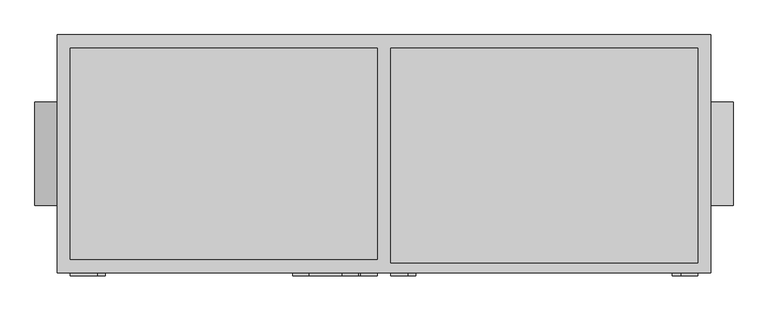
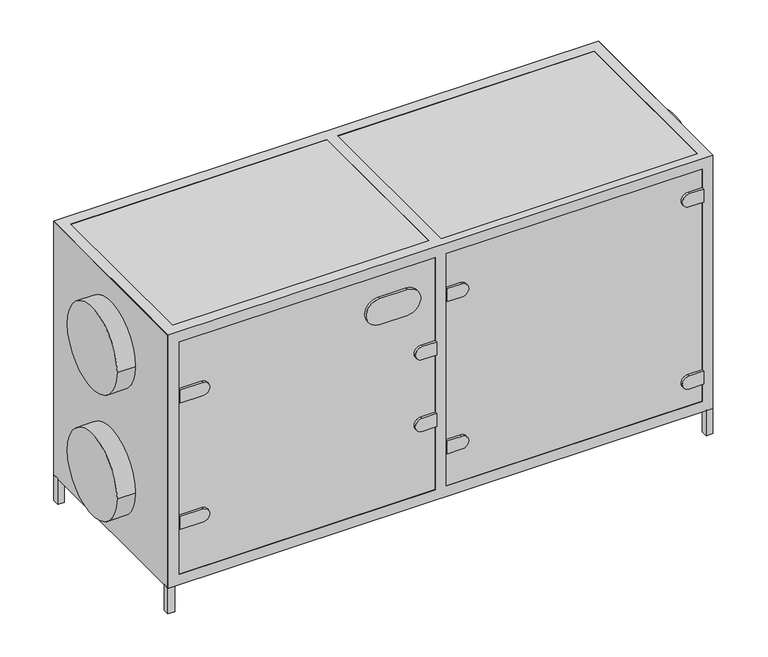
"""IFC4 building model written with IfcOpenShell, lengths in millimetres: proxy geometry, AVS 400...1600-S-RC(RG)-R : AVS 1600-S-RC-R."""

import ifcopenshell
import ifcopenshell.guid

model = None  # the IFC model being written
_history = None  # IfcOwnerHistory: only IFC2X3 demands one
_inside = {}  # id of a spatial element -> (the spatial element, [elements in it])
_under = {}  # id of a project, library or spatial element -> (it, [spatial elements below it])
_declared = {}  # id of a project -> (the project, [libraries it declares])
_typed = {}  # id of a type object -> (the type object, [elements of that type])
_made_of = {}  # id of a material, layer set ... -> (it, [elements and type objects made of it])


def new_model(schema):
    """Start an empty IFC model of exactly this schema.

    Asked for "IFC4X3", IfcOpenShell would pick the latest addendum, in which some entities
    have other attributes; the version numbers below select the first issue.
    IFC2X3 requires an IfcOwnerHistory on every rooted entity: one is made here for all.
    """
    global model, _history
    if schema == "IFC4X3":
        model = ifcopenshell.file(schema_version=(4, 3, 0, 0))
    else:
        model = ifcopenshell.file(schema=schema)
    _inside.clear()
    _under.clear()
    _declared.clear()
    _typed.clear()
    _made_of.clear()
    _history = None
    if model.schema == "IFC2X3":
        org = make("IfcOrganization", Name="unknown")
        user = make(
            "IfcPersonAndOrganization",
            ThePerson=make("IfcPerson", FamilyName="unknown"),
            TheOrganization=org,
        )
        app = make(
            "IfcApplication",
            ApplicationDeveloper=org,
            Version="unknown",
            ApplicationFullName="unknown",
            ApplicationIdentifier="unknown",
        )
        _history = make(
            "IfcOwnerHistory",
            OwningUser=user,
            OwningApplication=app,
            ChangeAction="ADDED",
            CreationDate=0,
        )
    return model


def make(cls, **values):
    """One entity of the class cls with the attributes given. An attribute that is None is left unset."""
    return model.create_entity(
        cls, **{name: value for name, value in values.items() if value is not None}
    )


def rooted(cls, **values):
    """An entity with a GlobalId (a new one), such as an element, a storey or a relation."""
    return make(cls, GlobalId=ifcopenshell.guid.new(), OwnerHistory=_history, **values)


def si_unit(unit_type, name, prefix=None):
    """IfcSIUnit, for example si_unit("LENGTHUNIT", "METRE", prefix="MILLI")."""
    return make("IfcSIUnit", UnitType=unit_type, Prefix=prefix, Name=name)


def assignment(units):
    """IfcUnitAssignment: the units of a project."""
    return None if units is None else make("IfcUnitAssignment", Units=units)


def point(xyz):
    """IfcCartesianPoint."""
    return None if xyz is None else make("IfcCartesianPoint", Coordinates=xyz)


def direction(xyz):
    """IfcDirection."""
    return None if xyz is None else make("IfcDirection", DirectionRatios=xyz)


def frame(location, z_axis=None, x_axis=None):
    """IfcAxis2Placement3D, a coordinate frame: its origin and axes. An axis left out is left unset."""
    return make(
        "IfcAxis2Placement3D",
        Location=point(location),
        Axis=direction(z_axis),
        RefDirection=direction(x_axis),
    )


def frame_2d(location, x_axis=None):
    """IfcAxis2Placement2D, a coordinate frame in the plane: its origin and x axis."""
    return make(
        "IfcAxis2Placement2D", Location=point(location), RefDirection=direction(x_axis)
    )


def origin():
    """The frame at (0, 0, 0) with its axes left unset."""
    return frame((0.0, 0.0, 0.0))


def origin_with_axes():
    """The frame at (0, 0, 0) with the z axis (0, 0, 1) and the x axis (1, 0, 0) written out."""
    return frame((0.0, 0.0, 0.0), z_axis=(0.0, 0.0, 1.0), x_axis=(1.0, 0.0, 0.0))


def place(relative_to, where):
    """IfcLocalPlacement: puts the frame where relative to a parent placement (None: the world)."""
    return make(
        "IfcLocalPlacement", PlacementRelTo=relative_to, RelativePlacement=where
    )


def context(
    kind, dimensions, precision=None, world=None, true_north=None, identifier=None
):
    """IfcGeometricRepresentationContext, for example the 3D "Model" context."""
    return make(
        "IfcGeometricRepresentationContext",
        ContextIdentifier=identifier,
        ContextType=kind,
        CoordinateSpaceDimension=dimensions,
        Precision=precision,
        WorldCoordinateSystem=world,
        TrueNorth=true_north,
    )


def project(units=None, contexts=None):
    """IfcProject with its units and contexts."""
    return rooted(
        "IfcProject",
        Name="project",
        RepresentationContexts=contexts,
        UnitsInContext=assignment(units),
    )


def spatial(cls, under=None, at=None, **own):
    """A site, building, storey or space (cls), placed at a placement, below another one or the project."""
    s = rooted(cls, ObjectPlacement=at, **own)
    if under is not None:
        _under.setdefault(under.id(), (under, []))[1].append(s)
    return s


def polyline(points):
    """IfcPolyline through the points."""
    return make("IfcPolyline", Points=[point(p) for p in points])


def circle_curve(where, radius):
    """IfcCircle in the frame where."""
    return make("IfcCircle", Position=where, Radius=radius)


def trimmed(basis, trim1, trim2, sense, master):
    """IfcTrimmedCurve: the piece of a basis curve between two trims."""
    return make(
        "IfcTrimmedCurve",
        BasisCurve=basis,
        Trim1=trim1,
        Trim2=trim2,
        SenseAgreement=sense,
        MasterRepresentation=master,
    )


def segment(curve, same_sense, transition):
    """IfcCompositeCurveSegment."""
    return make(
        "IfcCompositeCurveSegment",
        Transition=transition,
        SameSense=same_sense,
        ParentCurve=curve,
    )


def composite_curve(segments, self_intersect=None):
    """IfcCompositeCurve: segments joined end to end."""
    return make("IfcCompositeCurve", Segments=segments, SelfIntersect=self_intersect)


def outline(outer, holes=None, kind="AREA"):
    """IfcArbitraryClosedProfileDef: a profile drawn as a closed curve; with holes, ...WithVoids."""
    if holes is None:
        return make("IfcArbitraryClosedProfileDef", ProfileType=kind, OuterCurve=outer)
    return make(
        "IfcArbitraryProfileDefWithVoids",
        ProfileType=kind,
        OuterCurve=outer,
        InnerCurves=holes,
    )


def extrude(swept, where, along, depth):
    """IfcExtrudedAreaSolid: the profile swept, set in the frame where, extruded along a direction by depth."""
    return make(
        "IfcExtrudedAreaSolid",
        SweptArea=swept,
        Position=where,
        ExtrudedDirection=direction(along),
        Depth=depth,
    )


def faces_of(points, faces, orient=None, outer=None):
    """IfcFace entities. A face is a list of loops; a loop is a list of indices into points, from 0.

    orient and outer hold one flag for each loop. By default every Orientation is true, the
    first loop of a face is its IfcFaceOuterBound and the others are IfcFaceBound.
    """
    made = []
    for i, loops in enumerate(faces):
        bounds = []
        for j, loop in enumerate(loops):
            is_outer = j == 0 if outer is None else outer[i][j]
            bounds.append(
                make(
                    "IfcFaceOuterBound" if is_outer else "IfcFaceBound",
                    Bound=make("IfcPolyLoop", Polygon=[points[k] for k in loop]),
                    Orientation=True if orient is None else orient[i][j],
                )
            )
        made.append(make("IfcFace", Bounds=bounds))
    return made


def faceted_brep(points, faces, orient=None, outer=None, voids=None):
    """IfcFacetedBrep: a solid bounded by flat faces; with voids (closed shells), ...WithVoids."""
    shared = [point(p) for p in points]
    hull = make("IfcClosedShell", CfsFaces=faces_of(shared, faces, orient, outer))
    if voids is None:
        return make("IfcFacetedBrep", Outer=hull)
    return make(
        "IfcFacetedBrepWithVoids",
        Outer=hull,
        Voids=[
            make(cls, CfsFaces=faces_of(shared, fs, o, b)) for cls, fs, o, b in voids
        ],
    )


def shape(context_of_items, identifier, shape_type, items):
    """IfcShapeRepresentation: the items that make up one representation, for example the "Body"."""
    return make(
        "IfcShapeRepresentation",
        ContextOfItems=context_of_items,
        RepresentationIdentifier=identifier,
        RepresentationType=shape_type,
        Items=items,
    )


def source(mapping_origin, context_of_items, identifier, shape_type, items):
    """IfcRepresentationMap: a shape defined once, which mapped items show again and again."""
    return make(
        "IfcRepresentationMap",
        MappingOrigin=mapping_origin,
        MappedRepresentation=shape(context_of_items, identifier, shape_type, items),
    )


def transform(
    local_origin,
    x_axis=None,
    y_axis=None,
    z_axis=None,
    scale=None,
    scale2=None,
    scale3=None,
    uniform=True,
):
    """IfcCartesianTransformationOperator3D, or its non-uniform kind. x_axis, y_axis, z_axis: its Axis1, 2, 3."""
    if uniform:
        return make(
            "IfcCartesianTransformationOperator3D",
            Axis1=direction(x_axis),
            Axis2=direction(y_axis),
            LocalOrigin=point(local_origin),
            Scale=scale,
            Axis3=direction(z_axis),
        )
    return make(
        "IfcCartesianTransformationOperator3DnonUniform",
        Axis1=direction(x_axis),
        Axis2=direction(y_axis),
        LocalOrigin=point(local_origin),
        Scale=scale,
        Axis3=direction(z_axis),
        Scale2=scale2,
        Scale3=scale3,
    )


def mapped(mapping_source, mapping_target):
    """IfcMappedItem: shows the shape of a source again, moved by a transform."""
    return make(
        "IfcMappedItem", MappingSource=mapping_source, MappingTarget=mapping_target
    )


def made_of(thing, what):
    """Note that an element or type object is made of a material, layer set ...; save() writes the relation."""
    if what is not None:
        _made_of.setdefault(what.id(), (what, []))[1].append(thing)
    return thing


def element(
    cls,
    number,
    at=None,
    inside=None,
    cuts=None,
    type_object=None,
    material=None,
    context=None,
    identifier="Body",
    shape_type=None,
    held_by="IfcProductDefinitionShape",
    body=None,
    shapes=None,
    **own,
):
    """One element of the class cls, such as IfcWall. Its Tag is "e" and its number.

    at: its placement. inside: the storey or other place that contains it. cuts: it is an
    opening in that element (IfcRelVoidsElement). A single representation is given by context,
    identifier, shape_type and body (its items); several are given by shapes. held_by: the class
    of the entity that holds the representations. save() writes the other relations.
    """
    e = rooted(cls, Tag="e%d" % number, ObjectPlacement=at, **own)
    if body is not None:
        shapes = [shape(context, identifier, shape_type, body)]
    if shapes is not None:
        e.Representation = make(held_by, Representations=shapes)
    if inside is not None:
        _inside.setdefault(inside.id(), (inside, []))[1].append(e)
    if cuts is not None:
        rooted(
            "IfcRelVoidsElement", RelatingBuildingElement=cuts, RelatedOpeningElement=e
        )
    if type_object is not None:
        _typed.setdefault(type_object.id(), (type_object, []))[1].append(e)
    return made_of(e, material)


def aggregate(whole, parts):
    """IfcRelAggregates: a whole, such as a stair, and the parts it consists of."""
    return rooted("IfcRelAggregates", RelatingObject=whole, RelatedObjects=parts)


def save(model, path):
    """Write the relations noted so far, then the file.

    IfcRelAggregates (storeys below a building ...), IfcRelContainedInSpatialStructure (elements
    in a storey), IfcRelDefinesByType, IfcRelAssociatesMaterial and IfcRelDeclares: one each for
    every whole, place, type object, material and project.
    """
    for whole, parts in _under.values():
        aggregate(whole, parts)
    for where, things in _inside.values():
        rooted(
            "IfcRelContainedInSpatialStructure",
            RelatedElements=things,
            RelatingStructure=where,
        )
    for kind, things in _typed.values():
        rooted("IfcRelDefinesByType", RelatedObjects=things, RelatingType=kind)
    for what, things in _made_of.values():
        rooted("IfcRelAssociatesMaterial", RelatedObjects=things, RelatingMaterial=what)
    for by, libraries in _declared.values():
        rooted("IfcRelDeclares", RelatingContext=by, RelatedDefinitions=libraries)
    model.write(path)


def mechanical_equipment_086ffb07(model_context):
    return source(origin(), model_context, "Body", "SolidModel", [
        extrude(outline(polyline([(974.0, 363.0), (999.0, 363.0), (999.0, 338.0), (974.0, 338.0), (974.0, 363.0)])), origin_with_axes(), (0.0, 0.0, 1.0), 100.0),
        extrude(outline(polyline([(974.0, -363.0), (974.0, -338.0), (999.0, -338.0), (999.0, -363.0), (974.0, -363.0)])), origin_with_axes(), (0.0, 0.0, 1.0), 100.0),
        extrude(outline(polyline([(-999.0, 338.0), (-999.0, 363.0), (-974.0, 363.0), (-974.0, 338.0), (-999.0, 338.0)])), origin_with_axes(), (0.0, 0.0, 1.0), 100.0),
        extrude(outline(polyline([(-999.0, -338.0), (-974.0, -338.0), (-974.0, -363.0), (-999.0, -363.0), (-999.0, -338.0)])), origin_with_axes(), (0.0, 0.0, 1.0), 100.0),
        faceted_brep([(998.0, 364.0, 1082.0), (-998.0, 364.0, 1082.0), (-998.0, -364.0, 1082.0), (998.0, -364.0, 1082.0), (-959.0, 323.0, 1082.0), (-20.0, 323.0, 1082.0), (-20.0, -323.0, 1082.0), (-959.0, -323.0, 1082.0), (959.0, 323.0, 1082.0), (959.0, -334.0, 1082.0), (20.0, -334.0, 1082.0), (20.0, 323.0, 1082.0), (998.0, 364.0, 99.0), (998.0, -364.0, 99.0), (-998.0, -364.0, 99.0), (-998.0, 364.0, 99.0), (-20.0, 323.0, 99.0), (-959.0, 323.0, 99.0), (-959.0, -323.0, 99.0), (-20.0, -323.0, 99.0), (959.0, -334.0, 99.0), (959.0, 323.0, 99.0), (20.0, 323.0, 99.0), (20.0, -334.0, 99.0), (-20.0, 364.0, 1041.0), (-959.0, 364.0, 1041.0), (-959.0, 364.0, 140.0), (-20.0, 364.0, 140.0), (959.0, 364.0, 140.0), (959.0, 364.0, 1041.0), (20.0, 364.0, 1041.0), (20.0, 364.0, 140.0), (-998.0, -323.0, 1041.0), (-998.0, -323.0, 140.0), (-998.0, 323.0, 140.0), (-998.0, 323.0, 1041.0), (-959.0, -364.0, 1041.0), (-20.0, -364.0, 1041.0), (-20.0, -364.0, 140.0), (-959.0, -364.0, 140.0), (959.0, -364.0, 1041.0), (959.0, -364.0, 140.0), (20.0, -364.0, 140.0), (20.0, -364.0, 1041.0), (998.0, -323.0, 140.0), (998.0, -323.0, 1041.0), (998.0, 323.0, 1041.0), (998.0, 323.0, 140.0), (-959.0, 323.0, 1041.0), (-20.0, 323.0, 1041.0), (-20.0, 323.0, 140.0), (-959.0, 323.0, 140.0), (-20.0, -323.0, 1041.0), (-959.0, -323.0, 1041.0), (-959.0, -323.0, 140.0), (-20.0, -323.0, 140.0), (959.0, 323.0, 1041.0), (959.0, -323.0, 1041.0), (959.0, -323.0, 140.0), (959.0, 323.0, 140.0), (959.0, -334.0, 140.0), (959.0, -334.0, 1041.0), (20.0, 323.0, 1041.0), (20.0, -323.0, 1041.0), (20.0, -323.0, 140.0), (20.0, 323.0, 140.0), (20.0, -334.0, 1041.0), (20.0, -334.0, 140.0)], [[[0, 1, 2, 3], [4, 5, 6, 7], [8, 9, 10, 11]], [[12, 13, 14, 15], [16, 17, 18, 19], [20, 21, 22, 23]], [[1, 0, 12, 15], [24, 25, 26, 27], [28, 29, 30, 31]], [[2, 1, 15, 14], [32, 33, 34, 35]], [[3, 2, 14, 13], [36, 37, 38, 39], [40, 41, 42, 43]], [[0, 3, 13, 12], [44, 45, 46, 47]], [[5, 4, 48, 49]], [[17, 16, 50, 51]], [[7, 6, 52, 53]], [[19, 18, 54, 55]], [[9, 8, 56, 57, 58, 59, 21, 20, 60, 41, 40, 61]], [[56, 29, 28, 59]], [[35, 48, 53, 32]], [[56, 46, 45, 57]], [[49, 62, 63, 52]], [[51, 34, 33, 54]], [[47, 59, 58, 44]], [[55, 64, 65, 50]], [[36, 53, 52, 37]], [[24, 49, 48, 25]], [[54, 39, 38, 55]], [[50, 27, 26, 51]], [[32, 53, 54, 33]], [[57, 45, 44, 58]], [[52, 63, 64, 55]], [[48, 35, 34, 51]], [[62, 49, 50, 65]], [[59, 47, 46, 56]], [[4, 7, 53, 48]], [[18, 17, 51, 54]], [[53, 36, 39, 54]], [[25, 48, 51, 26]], [[6, 5, 49, 52]], [[16, 19, 55, 50]], [[37, 52, 55, 38]], [[49, 24, 27, 50]], [[8, 11, 62, 56]], [[22, 21, 59, 65]], [[11, 10, 66, 43, 42, 67, 23, 22, 65, 64, 63, 62]], [[30, 62, 65, 31]], [[10, 9, 61, 66]], [[20, 23, 67, 60]], [[61, 40, 43, 66]], [[29, 56, 62, 30]], [[41, 60, 67, 42]], [[59, 28, 31, 65]]]),
        extrude(outline(polyline([(-999.0, 363.0), (999.0, 363.0), (999.0, -363.0), (-999.0, -363.0), (-999.0, 363.0)])), frame((0.0, 0.0, 100.0), z_axis=(0.0, 0.0, 1.0), x_axis=(1.0, 0.0, 0.0)), (0.0, 0.0, 1.0), 981.0),
        extrude(outline(composite_curve([segment(polyline([(860.75, -876.2895396), (860.75, -959.0), (810.75, -959.0), (810.75, -876.2895396)]), True, "CONTINUOUS"), segment(trimmed(circle_curve(frame_2d((835.75, -876.2895396)), 25.0), [point((810.75, -876.2895396))], [point((860.75, -876.2895396))], False, "CARTESIAN"), True, "CONTINUOUS")], self_intersect=False)), frame((0.0, -373.0, 0.0), z_axis=(0.0, 1.0, 0.0), x_axis=(0.0, 0.0, 1.0)), (0.0, 0.0, 1.0), 10.0),
        extrude(outline(composite_curve([segment(polyline([(370.25, -876.2895396), (370.25, -959.0), (320.25, -959.0), (320.25, -876.2895396)]), True, "CONTINUOUS"), segment(trimmed(circle_curve(frame_2d((345.25, -876.2895396)), 25.0), [point((320.25, -876.2895396))], [point((370.25, -876.2895396))], False, "CARTESIAN"), True, "CONTINUOUS")], self_intersect=False)), frame((0.0, -373.0, 0.0), z_axis=(0.0, 1.0, 0.0), x_axis=(0.0, 0.0, 1.0)), (0.0, 0.0, 1.0), 10.0),
        extrude(outline(composite_curve([segment(trimmed(circle_curve(frame_2d((693.5, -72.7104604)), 25.0), [point((718.5, -72.7104604))], [point((668.5, -72.7104604))], False, "CARTESIAN"), True, "CONTINUOUS"), segment(polyline([(668.5, -72.7104604), (668.5, -20.0), (718.5, -20.0), (718.5, -72.7104604)]), True, "CONTINUOUS")], self_intersect=False)), frame((0.0, -373.0, 0.0), z_axis=(0.0, 1.0, 0.0), x_axis=(0.0, 0.0, 1.0)), (0.0, 0.0, 1.0), 10.0),
        extrude(outline(composite_curve([segment(polyline([(390.25, -72.7104604), (390.25, -20.0), (440.25, -20.0), (440.25, -72.7104604)]), True, "CONTINUOUS"), segment(trimmed(circle_curve(frame_2d((415.25, -72.7104604)), 25.0), [point((440.25, -72.7104604))], [point((390.25, -72.7104604))], False, "CARTESIAN"), True, "CONTINUOUS")], self_intersect=False)), frame((0.0, -373.0, 0.0), z_axis=(0.0, 1.0, 0.0), x_axis=(0.0, 0.0, 1.0)), (0.0, 0.0, 1.0), 10.0),
        extrude(outline(composite_curve([segment(trimmed(circle_curve(frame_2d((943.75, 906.2895396)), 25.0), [point((968.75, 906.2895396))], [point((918.75, 906.2895396))], False, "CARTESIAN"), True, "CONTINUOUS"), segment(polyline([(918.75, 906.2895396), (918.75, 959.0), (968.75, 959.0), (968.75, 906.2895396)]), True, "CONTINUOUS")], self_intersect=False)), frame((0.0, -373.0, 0.0), z_axis=(0.0, 1.0, 0.0), x_axis=(0.0, 0.0, 1.0)), (0.0, 0.0, 1.0), 10.0),
        extrude(outline(composite_curve([segment(polyline([(212.25, 906.2895396), (212.25, 959.0), (262.25, 959.0), (262.25, 906.2895396)]), True, "CONTINUOUS"), segment(trimmed(circle_curve(frame_2d((237.25, 906.2895396)), 25.0), [point((262.25, 906.2895396))], [point((212.25, 906.2895396))], False, "CARTESIAN"), True, "CONTINUOUS")], self_intersect=False)), frame((0.0, -373.0, 0.0), z_axis=(0.0, 1.0, 0.0), x_axis=(0.0, 0.0, 1.0)), (0.0, 0.0, 1.0), 10.0),
        extrude(outline(composite_curve([segment(polyline([(910.75, 72.7104604), (910.75, 20.0), (860.75, 20.0), (860.75, 72.7104604)]), True, "CONTINUOUS"), segment(trimmed(circle_curve(frame_2d((885.75, 72.7104604)), 25.0), [point((860.75, 72.7104604))], [point((910.75, 72.7104604))], False, "CARTESIAN"), True, "CONTINUOUS")], self_intersect=False)), frame((0.0, -373.0, 0.0), z_axis=(0.0, 1.0, 0.0), x_axis=(0.0, 0.0, 1.0)), (0.0, 0.0, 1.0), 10.0),
        extrude(outline(composite_curve([segment(trimmed(circle_curve(frame_2d((295.25, 72.7104604)), 25.0), [point((270.25, 72.7104604))], [point((320.25, 72.7104604))], False, "CARTESIAN"), True, "CONTINUOUS"), segment(polyline([(320.25, 72.7104604), (320.25, 20.0), (270.25, 20.0), (270.25, 72.7104604)]), True, "CONTINUOUS")], self_intersect=False)), frame((0.0, -373.0, 0.0), z_axis=(0.0, 1.0, 0.0), x_axis=(0.0, 0.0, 1.0)), (0.0, 0.0, 1.0), 10.0),
        extrude(outline(composite_curve([segment(polyline([(959.7031077, -128.4249776), (959.7031077, -228.4249776)]), True, "CONTINUOUS"), segment(trimmed(circle_curve(frame_2d((909.7031077, -228.4249776)), 50.0), [point((959.7031077, -228.4249776))], [point((859.7031077, -228.4249776))], False, "CARTESIAN"), True, "CONTINUOUS"), segment(polyline([(859.7031077, -228.4249776), (859.7031077, -128.4249776)]), True, "CONTINUOUS"), segment(trimmed(circle_curve(frame_2d((909.7031077, -128.4249776)), 50.0), [point((859.7031077, -128.4249776))], [point((959.7031077, -128.4249776))], False, "CARTESIAN"), True, "CONTINUOUS")], self_intersect=False)), frame((0.0, -373.0, 0.0), z_axis=(0.0, 1.0, 0.0), x_axis=(0.0, 0.0, 1.0)), (0.0, 0.0, 1.0), 10.0),
        extrude(outline(composite_curve([segment(trimmed(circle_curve(frame_2d((0.0, 835.75)), 157.5), [point((-157.5, 835.75))], [point((157.5, 835.75))], False, "CARTESIAN"), True, "CONTINUOUS"), segment(trimmed(circle_curve(frame_2d((0.0, 835.75)), 157.5), [point((157.5, 835.75))], [point((-157.5, 835.75))], False, "CARTESIAN"), True, "CONTINUOUS")], self_intersect=False)), frame((-1067.0, 0.0, 0.0), z_axis=(1.0, 0.0, 0.0), x_axis=(0.0, 1.0, 0.0)), (0.0, 0.0, 1.0), 68.0),
        extrude(outline(composite_curve([segment(trimmed(circle_curve(frame_2d((0.0, 345.25)), 157.5), [point((-157.5, 345.25))], [point((157.5, 345.25))], False, "CARTESIAN"), True, "CONTINUOUS"), segment(trimmed(circle_curve(frame_2d((0.0, 345.25)), 157.5), [point((157.5, 345.25))], [point((-157.5, 345.25))], False, "CARTESIAN"), True, "CONTINUOUS")], self_intersect=False)), frame((-1067.0, 0.0, 0.0), z_axis=(1.0, 0.0, 0.0), x_axis=(0.0, 1.0, 0.0)), (0.0, 0.0, 1.0), 68.0),
        extrude(outline(composite_curve([segment(trimmed(circle_curve(frame_2d((0.0, 835.75)), 157.5), [point((-157.5, 835.75))], [point((157.5, 835.75))], False, "CARTESIAN"), True, "CONTINUOUS"), segment(trimmed(circle_curve(frame_2d((0.0, 835.75)), 157.5), [point((157.5, 835.75))], [point((-157.5, 835.75))], False, "CARTESIAN"), True, "CONTINUOUS")], self_intersect=False)), frame((999.0, 0.0, 0.0), z_axis=(1.0, 0.0, 0.0), x_axis=(0.0, 1.0, 0.0)), (0.0, 0.0, 1.0), 68.0),
        extrude(outline(composite_curve([segment(trimmed(circle_curve(frame_2d((0.0, 345.25)), 157.5), [point((-157.5, 345.25))], [point((157.5, 345.25))], False, "CARTESIAN"), True, "CONTINUOUS"), segment(trimmed(circle_curve(frame_2d((0.0, 345.25)), 157.5), [point((157.5, 345.25))], [point((-157.5, 345.25))], False, "CARTESIAN"), True, "CONTINUOUS")], self_intersect=False)), frame((999.0, 0.0, 0.0), z_axis=(1.0, 0.0, 0.0), x_axis=(0.0, 1.0, 0.0)), (0.0, 0.0, 1.0), 68.0),
    ])


if __name__ == "__main__":
    model = new_model("IFC4")
    model_context = context("Model", 3, world=origin())
    ifc_project = project(units=[si_unit("LENGTHUNIT", "METRE", prefix="MILLI")], contexts=[model_context])
    site = spatial("IfcSite", under=ifc_project)
    building = spatial("IfcBuilding", under=site)
    placement = place(None, origin())
    mechanical_equipment_shape = mechanical_equipment_086ffb07(model_context)
    element("IfcBuildingElementProxy", 1, Name="AVS 400...1600-S-RC(RG)-R : AVS 1600-S-RC-R", ObjectType="AVS 400...1600-S-RC(RG)-R : AVS 1600-S-RC-R", at=placement, inside=building, context=model_context, shape_type="MappedRepresentation", body=[
        mapped(mechanical_equipment_shape, transform((0.0, 0.0, 0.0), x_axis=(1.0, 0.0, 0.0), y_axis=(0.0, 1.0, 0.0), z_axis=(0.0, 0.0, 1.0))),
    ])
    save(model, "model.ifc")
